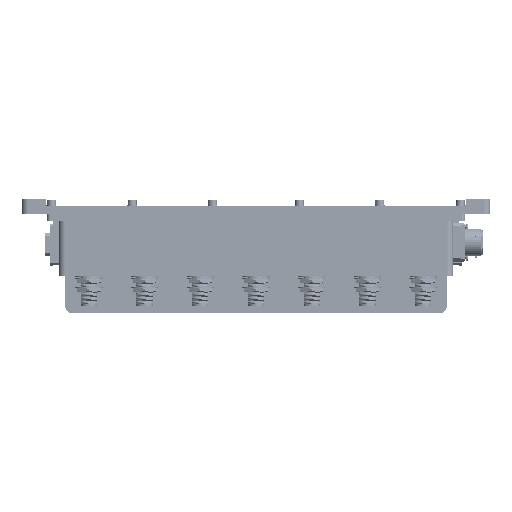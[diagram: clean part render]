
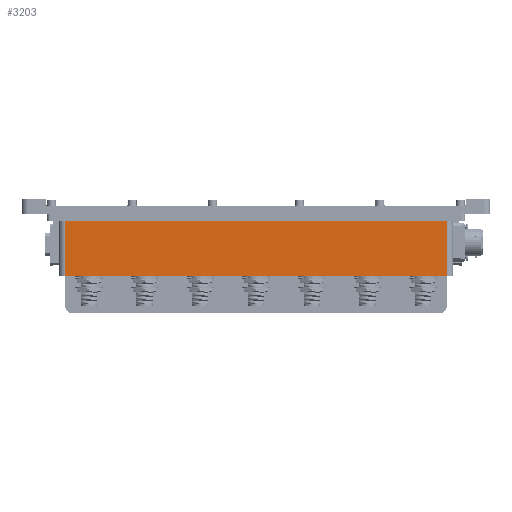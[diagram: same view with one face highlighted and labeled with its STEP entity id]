
A CAD part, front view. The second image highlights one B-rep face of the part: STEP entity #3203.
In plain terms, the highlighted planar face has unit normal (0, -1, 0).
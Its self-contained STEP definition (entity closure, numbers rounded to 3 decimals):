
#3203 = ADVANCED_FACE ( 'NONE', ( #424233 ), #102212, .T. ) ;
#28260 = CARTESIAN_POINT ( 'NONE',  ( -154.5, -135.5, 44. ) ) ;
#30087 = LINE ( 'NONE', #305924, #143400 ) ;
#35273 = CARTESIAN_POINT ( 'NONE',  ( 154.5, -135.5, 44. ) ) ;
#47455 = VECTOR ( 'NONE', #253910, 1000. ) ;
#49844 = CARTESIAN_POINT ( 'NONE',  ( -154.5, -135.5, 496.01 ) ) ;
#60735 = DIRECTION ( 'NONE',  ( -1., 0., 0. ) ) ;
#67485 = DIRECTION ( 'NONE',  ( 0., -1., 0. ) ) ;
#74640 = AXIS2_PLACEMENT_3D ( 'NONE', #426479, #67485, #322211 ) ;
#77909 = ORIENTED_EDGE ( 'NONE', *, *, #133436, .F. ) ;
#80308 = EDGE_LOOP ( 'NONE', ( #77909, #163404, #137740, #288661 ) ) ;
#82727 = CARTESIAN_POINT ( 'NONE',  ( -154.5, -135.5, 0. ) ) ;
#102212 = PLANE ( 'NONE',  #74640 ) ;
#112591 = LINE ( 'NONE', #49844, #47455 ) ;
#125668 = VERTEX_POINT ( 'NONE', #413049 ) ;
#133436 = EDGE_CURVE ( 'NONE', #125668, #359653, #236849, .T. ) ;
#137740 = ORIENTED_EDGE ( 'NONE', *, *, #266370, .F. ) ;
#143400 = VECTOR ( 'NONE', #203873, 1000. ) ;
#163404 = ORIENTED_EDGE ( 'NONE', *, *, #183615, .T. ) ;
#165020 = CARTESIAN_POINT ( 'NONE',  ( 159., -135.5, 0. ) ) ;
#167515 = CARTESIAN_POINT ( 'NONE',  ( 154.5, -135.5, 496.01 ) ) ;
#183615 = EDGE_CURVE ( 'NONE', #125668, #245134, #339127, .T. ) ;
#203873 = DIRECTION ( 'NONE',  ( 1., 0., 0. ) ) ;
#221969 = VECTOR ( 'NONE', #60735, 1000. ) ;
#236849 = LINE ( 'NONE', #165020, #221969 ) ;
#245134 = VERTEX_POINT ( 'NONE', #35273 ) ;
#253910 = DIRECTION ( 'NONE',  ( 0., 0., -1. ) ) ;
#255398 = VECTOR ( 'NONE', #299785, 1000. ) ;
#266370 = EDGE_CURVE ( 'NONE', #449914, #245134, #30087, .T. ) ;
#288661 = ORIENTED_EDGE ( 'NONE', *, *, #458580, .T. ) ;
#299785 = DIRECTION ( 'NONE',  ( 0., 0., 1. ) ) ;
#305924 = CARTESIAN_POINT ( 'NONE',  ( 159., -135.5, 44. ) ) ;
#322211 = DIRECTION ( 'NONE',  ( 0., 0., -1. ) ) ;
#339127 = LINE ( 'NONE', #167515, #255398 ) ;
#359653 = VERTEX_POINT ( 'NONE', #82727 ) ;
#413049 = CARTESIAN_POINT ( 'NONE',  ( 154.5, -135.5, 0. ) ) ;
#424233 = FACE_OUTER_BOUND ( 'NONE', #80308, .T. ) ;
#426479 = CARTESIAN_POINT ( 'NONE',  ( 159., -135.5, 496.01 ) ) ;
#449914 = VERTEX_POINT ( 'NONE', #28260 ) ;
#458580 = EDGE_CURVE ( 'NONE', #449914, #359653, #112591, .T. ) ;
